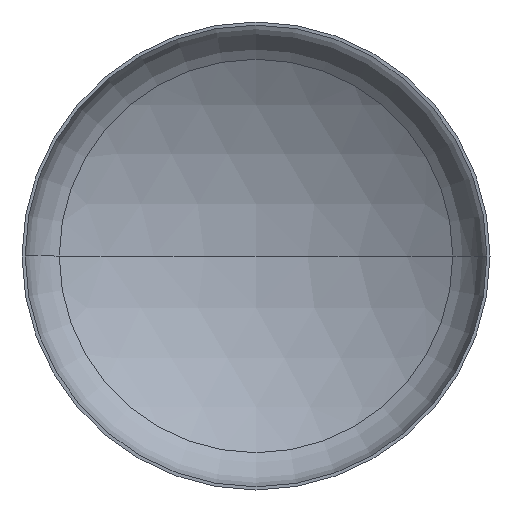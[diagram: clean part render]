
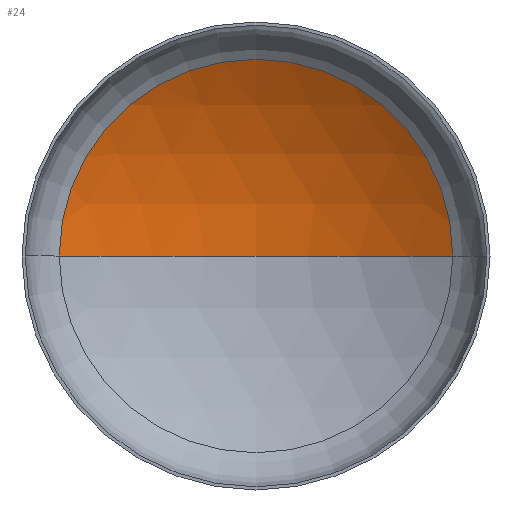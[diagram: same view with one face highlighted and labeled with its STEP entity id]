
A CAD part, front view. The second image highlights one B-rep face of the part: STEP entity #24.
In plain terms, the highlighted spherical face has radius 2240 mm.
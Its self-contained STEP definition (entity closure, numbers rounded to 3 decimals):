
#17 = ORIENTED_EDGE ( 'NONE', *, *, #159, .T. ) ;
#24 = ADVANCED_FACE ( 'NONE', ( #187 ), #77, .F. ) ;
#27 = ORIENTED_EDGE ( 'NONE', *, *, #102, .F. ) ;
#57 = VERTEX_POINT ( 'NONE', #208 ) ;
#72 = VERTEX_POINT ( 'NONE', #219 ) ;
#77 = SPHERICAL_SURFACE ( 'NONE', #285, 2240. ) ;
#102 = EDGE_CURVE ( 'NONE', #72, #119, #317, .T. ) ;
#119 = VERTEX_POINT ( 'NONE', #345 ) ;
#120 = ORIENTED_EDGE ( 'NONE', *, *, #137, .T. ) ;
#124 = EDGE_LOOP ( 'NONE', ( #27, #120, #17 ) ) ;
#137 = EDGE_CURVE ( 'NONE', #72, #57, #258, .T. ) ;
#157 = CARTESIAN_POINT ( 'NONE',  ( 0., 425.864, 0. ) ) ;
#159 = EDGE_CURVE ( 'NONE', #57, #119, #240, .T. ) ;
#172 = DIRECTION ( 'NONE',  ( 0., -1., 0. ) ) ;
#173 = DIRECTION ( 'NONE',  ( 1., 0., 0. ) ) ;
#187 = FACE_OUTER_BOUND ( 'NONE', #124, .T. ) ;
#208 = CARTESIAN_POINT ( 'NONE',  ( 1176.928, 425.864, 0. ) ) ;
#219 = CARTESIAN_POINT ( 'NONE',  ( 0., 759.968, 0. ) ) ;
#231 = DIRECTION ( 'NONE',  ( -1., 0., 0. ) ) ;
#236 = CARTESIAN_POINT ( 'NONE',  ( 0., -1480.032, 0. ) ) ;
#240 = CIRCLE ( 'NONE', #372, 1176.928 ) ;
#258 = CIRCLE ( 'NONE', #344, 2240. ) ;
#285 = AXIS2_PLACEMENT_3D ( 'NONE', #236, #363, #231 ) ;
#301 = AXIS2_PLACEMENT_3D ( 'NONE', #343, #342, #349 ) ;
#304 = DIRECTION ( 'NONE',  ( -1., 0., 0. ) ) ;
#305 = DIRECTION ( 'NONE',  ( 0., 0., -1. ) ) ;
#306 = CARTESIAN_POINT ( 'NONE',  ( 0., -1480.032, 0. ) ) ;
#317 = CIRCLE ( 'NONE', #301, 2240. ) ;
#342 = DIRECTION ( 'NONE',  ( 0., 0., 1. ) ) ;
#343 = CARTESIAN_POINT ( 'NONE',  ( 0., -1480.032, 0. ) ) ;
#344 = AXIS2_PLACEMENT_3D ( 'NONE', #306, #305, #304 ) ;
#345 = CARTESIAN_POINT ( 'NONE',  ( -1176.928, 425.864, 0. ) ) ;
#349 = DIRECTION ( 'NONE',  ( 1., 0., 0. ) ) ;
#363 = DIRECTION ( 'NONE',  ( 0., 0., -1. ) ) ;
#372 = AXIS2_PLACEMENT_3D ( 'NONE', #157, #172, #173 ) ;
